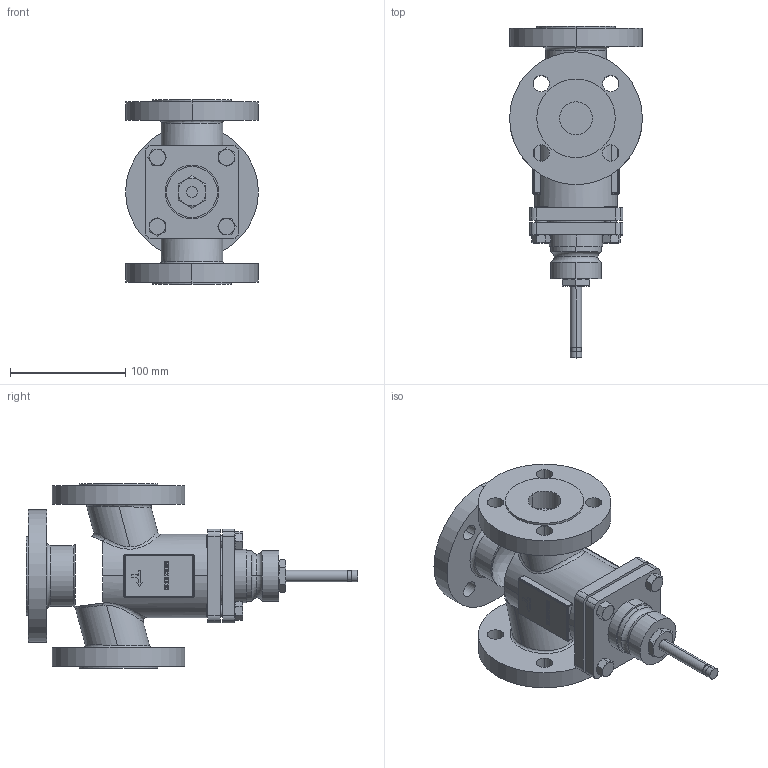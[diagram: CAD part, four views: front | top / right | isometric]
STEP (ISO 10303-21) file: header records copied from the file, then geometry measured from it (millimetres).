
FILE_DESCRIPTION((''),'2;1');
FILE_NAME('000321.dwg.stp','2006-10-23T13:46:16',(''),(''),'Mechanical Desktop 2006','Mechanical Desktop 2006',', , ');
FILE_SCHEMA(('AUTOMOTIVE_DESIGN { 1 2 10303 214 0 1 1 1 }'));
Length unit declared in the file: millimetre
Products named in the file (1): Product
Bounding box: 115 x 287.5 x 160 mm (x, y, z)
Volume: 1140707.6 mm3; surface area: 210304.3 mm2
Topology: 36 solids, 36 shells, 621 faces, 1605 edges, 1052 vertices
Faces by surface type: cylinder 282, plane 269, bspline 37, cone 20, sphere 9, torus 4
Entity records: 20532 total; most frequent: CARTESIAN_POINT 5100, DIRECTION 3290, ORIENTED_EDGE 3190, EDGE_CURVE 1595, AXIS2_PLACEMENT_3D 1220, VERTEX_POINT 1052, VECTOR 850, LINE 850
